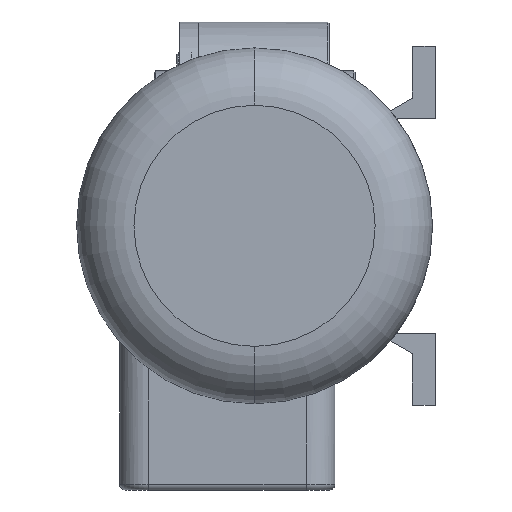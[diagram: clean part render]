
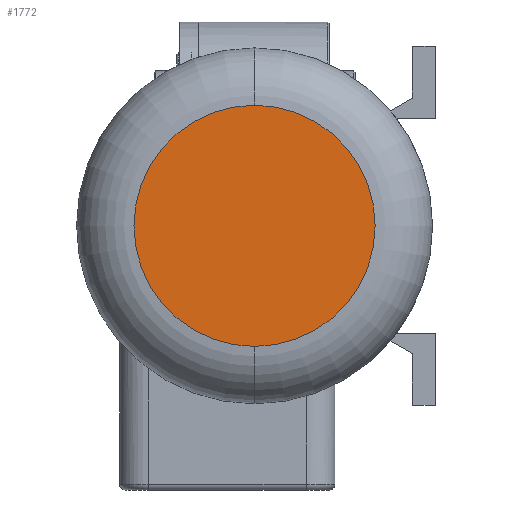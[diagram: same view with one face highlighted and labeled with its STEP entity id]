
A CAD part, left-side view. The second image highlights one B-rep face of the part: STEP entity #1772.
In plain terms, the highlighted planar face has unit normal (-1, 0, 0).
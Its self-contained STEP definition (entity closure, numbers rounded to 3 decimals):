
#564 = PLANE ( 'NONE',  #13489 ) ;
#757 = VERTEX_POINT ( 'NONE', #6661 ) ;
#781 = DIRECTION ( 'NONE',  ( 0., 0., -1. ) ) ;
#1772 = ADVANCED_FACE ( 'NONE', ( #7205 ), #564, .F. ) ;
#1810 = CIRCLE ( 'NONE', #9613, 42. ) ;
#1818 = CARTESIAN_POINT ( 'NONE',  ( 0., 0., -42. ) ) ;
#1884 = DIRECTION ( 'NONE',  ( 1., 0., 0. ) ) ;
#3341 = EDGE_CURVE ( 'NONE', #7757, #757, #3745, .T. ) ;
#3569 = CARTESIAN_POINT ( 'NONE',  ( 0., 0., 0. ) ) ;
#3745 = CIRCLE ( 'NONE', #13087, 42. ) ;
#6237 = EDGE_CURVE ( 'NONE', #757, #7757, #1810, .T. ) ;
#6661 = CARTESIAN_POINT ( 'NONE',  ( 0., 0., 42. ) ) ;
#7205 = FACE_OUTER_BOUND ( 'NONE', #9489, .T. ) ;
#7515 = DIRECTION ( 'NONE',  ( -1., 0., 0. ) ) ;
#7724 = ORIENTED_EDGE ( 'NONE', *, *, #3341, .T. ) ;
#7757 = VERTEX_POINT ( 'NONE', #1818 ) ;
#7949 = DIRECTION ( 'NONE',  ( -1., 0., 0. ) ) ;
#9489 = EDGE_LOOP ( 'NONE', ( #7724, #13828 ) ) ;
#9564 = DIRECTION ( 'NONE',  ( 0., 0., -1. ) ) ;
#9613 = AXIS2_PLACEMENT_3D ( 'NONE', #3569, #7949, #12274 ) ;
#10479 = CARTESIAN_POINT ( 'NONE',  ( 0., 0., 0. ) ) ;
#10604 = CARTESIAN_POINT ( 'NONE',  ( 0., 0., 0. ) ) ;
#12274 = DIRECTION ( 'NONE',  ( 0., 0., -1. ) ) ;
#13087 = AXIS2_PLACEMENT_3D ( 'NONE', #10479, #7515, #9564 ) ;
#13489 = AXIS2_PLACEMENT_3D ( 'NONE', #10604, #1884, #781 ) ;
#13828 = ORIENTED_EDGE ( 'NONE', *, *, #6237, .T. ) ;
